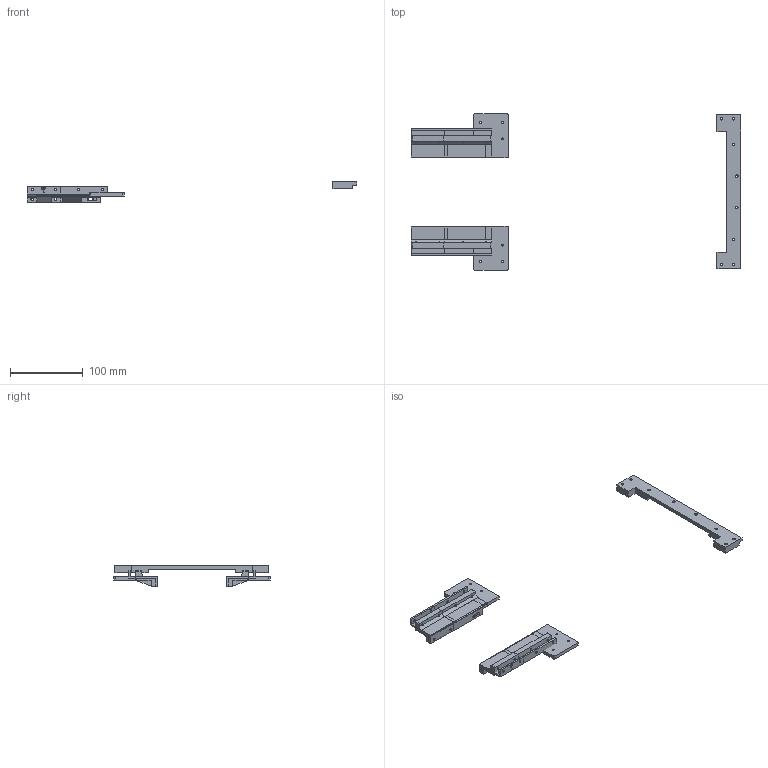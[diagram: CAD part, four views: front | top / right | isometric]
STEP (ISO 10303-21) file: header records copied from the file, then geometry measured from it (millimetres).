
FILE_DESCRIPTION(/* description */ (''),/* implementation_level */ '2;1');
FILE_NAME(/* name */ 'ahead RC TRX6 4320 cab mount.step',/* time_stamp */ '2023-01-07T11:33:18+08:00',/* author */ (''),/* organization */ (''),/* preprocessor_version */ 'ST-DEVELOPER v19.2',/* originating_system */ 'Autodesk Translation Framework v11.17.0.187',/* authorisation */ '');
FILE_SCHEMA (('AUTOMOTIVE_DESIGN { 1 0 10303 214 3 1 1 }'));
Products named in the file (1): TRX6 single and dual cab mount
Bounding box: 451.46 x 214.6 x 28.5 mm (x, y, z)
Volume: 241853.4 mm3; surface area: 118714.8 mm2
Topology: 11 solids, 11 shells, 1685 faces, 4763 edges, 3162 vertices
Faces by surface type: bspline 900, plane 644, cylinder 141
Full cylindrical faces by diameter (mm): 2.7 x24, 3.1 x12, 3.3 x6, 3.5 x22
Entity records: 63167 total; most frequent: CARTESIAN_POINT 25147, ORIENTED_EDGE 9526, DIRECTION 4839, EDGE_CURVE 4763, VERTEX_POINT 3162, LINE 2659, VECTOR 2659, EDGE_LOOP 1887
